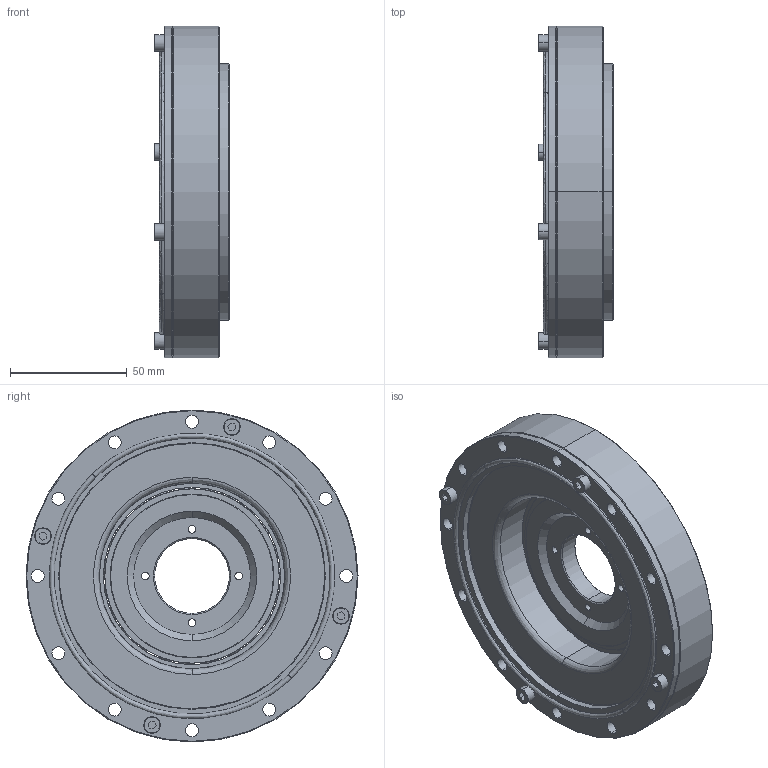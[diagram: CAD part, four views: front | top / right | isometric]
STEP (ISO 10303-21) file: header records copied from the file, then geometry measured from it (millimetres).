
FILE_DESCRIPTION (( 'STEP AP214' ), '1' );
FILE_NAME ('SHD-32-XXX-2SH.STEP', '2023-03-25T06:17:56', ( 'Admin' ), ( '' ), 'SwSTEP 2.0', 'SolidWorks 2018', '' );
FILE_SCHEMA (( 'AUTOMOTIVE_DESIGN' ));
Length unit declared in the file: millimetre
Products named in the file (41): SHD-32-XXX-SH_15; SHD-32-XXX-SH_4; SHD-32-XXX-SH_2; SHD-32-XXX-SH_23; SHD-32-XXX-SH_8; SHD-32-XXX-SH_17; SHD-32-XXX-SH_32; SHD-32-XXX-SH_27; SHD-32-XXX-SH_13; SHD-32-XXX-SH_35; SHD-32-XXX-SH_5; SHD-32-XXX-SH_20; SHD-32-XXX-SH_3; SHD-32-XXX-SH_18; SHD-32-XXX-SH_7; SHD-32-XXX-SH_39; SHD-32-XXX-SH_11; SHD-32-XXX-SH_25; SHD-32-XXX-SH_40; SHD-32-XXX-SH_26; SHD-32-XXX-SH_36; SHD-32-XXX-SH_22; SHD-32-XXX-SH_31; SHD-32-XXX-SH; SHD-32-XXX-SH_33; SHD-32-XXX-SH_24; SHD-32-XXX-SH_19; SHD-32-XXX-SH_30; SHD-32-XXX-SH_10; SHD-32-XXX-SH_6; SHD-32-XXX-2SH; SHD-32-XXX-SH_34; SHD-32-XXX-SH_14; SHD-32-XXX-SH_37; SHD-32-XXX-SH_16; SHD-32-XXX-SH_12; SHD-32-XXX-SH_21; SHD-32-XXX-SH_9; SHD-32-XXX-SH_28; SHD-32-XXX-SH_38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
Assembly tree (40 placements, depth 2):
  SHD-32-XXX-2SH
    SHD-32-XXX-SH_29
    SHD-32-XXX-SH_4
    SHD-32-XXX-SH_34
    SHD-32-XXX-SH_9
    SHD-32-XXX-SH_8
    SHD-32-XXX-SH_12
    SHD-32-XXX-SH_19
    SHD-32-XXX-SH_30
    SHD-32-XXX-SH_35
    SHD-32-XXX-SH_17
    SHD-32-XXX-SH_16
    SHD-32-XXX-SH_11
    SHD-32-XXX-SH_22
    SHD-32-XXX-SH_39
    SHD-32-XXX-SH_13
    SHD-32-XXX-SH_21
    SHD-32-XXX-SH_3
    SHD-32-XXX-SH_27
    SHD-32-XXX-SH_40
    SHD-32-XXX-SH_10
    SHD-32-XXX-SH_7
    SHD-32-XXX-SH_6
    SHD-32-XXX-SH_33
    SHD-32-XXX-SH_32
    SHD-32-XXX-SH_24
    SHD-32-XXX-SH_25
    SHD-32-XXX-SH_31
    SHD-32-XXX-SH_18
    SHD-32-XXX-SH_36
    SHD-32-XXX-SH_37
    SHD-32-XXX-SH_26
    SHD-32-XXX-SH_5
    SHD-32-XXX-SH_28
    SHD-32-XXX-SH_15
    SHD-32-XXX-SH_23
    SHD-32-XXX-SH_2
    SHD-32-XXX-SH_20
    SHD-32-XXX-SH_14
    SHD-32-XXX-SH_38
    SHD-32-XXX-SH
Bounding box: 31.9 x 142 x 142 mm (x, y, z)
Volume: 255559 mm3; surface area: 152869.3 mm2
Topology: 40 solids, 40 shells, 569 faces, 1448 edges, 867 vertices
Faces by surface type: cylinder 243, plane 118, bspline 110, cone 98
Entity records: 23733 total; most frequent: CARTESIAN_POINT 8518, DIRECTION 3105, ORIENTED_EDGE 2648, EDGE_CURVE 1324, AXIS2_PLACEMENT_3D 1322, VERTEX_POINT 867, CIRCLE 820, EDGE_LOOP 689
